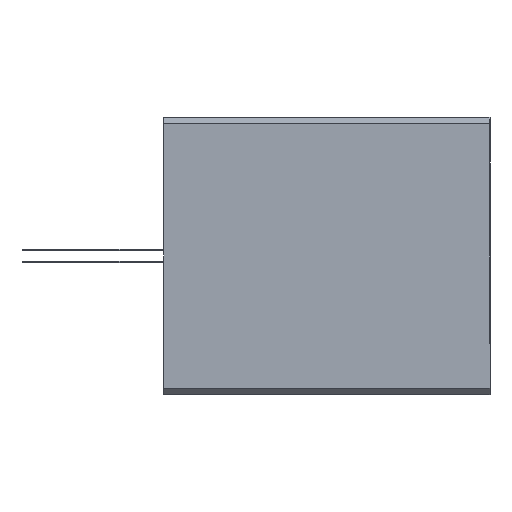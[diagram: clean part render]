
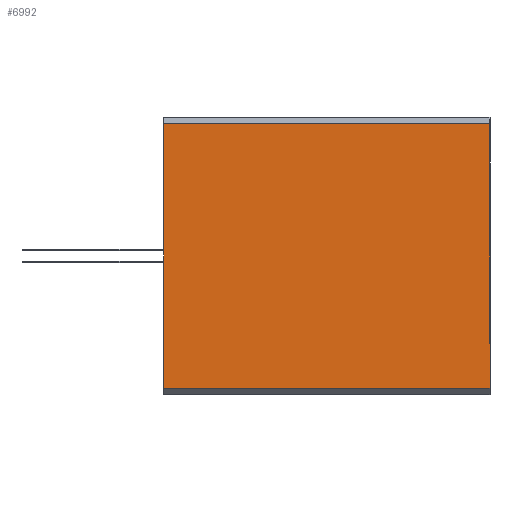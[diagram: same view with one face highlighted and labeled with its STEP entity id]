
A CAD part, front view. The second image highlights one B-rep face of the part: STEP entity #6992.
In plain terms, the highlighted planar face has unit normal (0, -1, 0).
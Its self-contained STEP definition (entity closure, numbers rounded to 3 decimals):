
#282 = DIRECTION ( 'NONE',  ( -1., 0., 0. ) ) ;
#703 = DIRECTION ( 'NONE',  ( 0., 0., -1. ) ) ;
#935 = CARTESIAN_POINT ( 'NONE',  ( 53., -22.5, 22.5 ) ) ;
#1168 = CARTESIAN_POINT ( 'NONE',  ( 53., -22.5, 21.5 ) ) ;
#1223 = EDGE_CURVE ( 'NONE', #5389, #7441, #8275, .T. ) ;
#1420 = EDGE_LOOP ( 'NONE', ( #3278, #5173, #4700, #8642 ) ) ;
#1824 = DIRECTION ( 'NONE',  ( 0., 0., 1. ) ) ;
#2746 = CARTESIAN_POINT ( 'NONE',  ( 53., -22.5, -21.5 ) ) ;
#2822 = EDGE_CURVE ( 'NONE', #11204, #5389, #10324, .T. ) ;
#2939 = VECTOR ( 'NONE', #703, 1000. ) ;
#3278 = ORIENTED_EDGE ( 'NONE', *, *, #1223, .T. ) ;
#3893 = CARTESIAN_POINT ( 'NONE',  ( 0., -22.5, 21.5 ) ) ;
#4263 = CARTESIAN_POINT ( 'NONE',  ( 53., -22.5, 22.5 ) ) ;
#4478 = CARTESIAN_POINT ( 'NONE',  ( 0., -22.5, 22.5 ) ) ;
#4686 = AXIS2_PLACEMENT_3D ( 'NONE', #935, #7218, #1824 ) ;
#4700 = ORIENTED_EDGE ( 'NONE', *, *, #9439, .F. ) ;
#4709 = LINE ( 'NONE', #5759, #9499 ) ;
#5173 = ORIENTED_EDGE ( 'NONE', *, *, #8188, .T. ) ;
#5331 = LINE ( 'NONE', #4263, #2939 ) ;
#5389 = VERTEX_POINT ( 'NONE', #3893 ) ;
#5759 = CARTESIAN_POINT ( 'NONE',  ( 53., -22.5, -21.5 ) ) ;
#5896 = VECTOR ( 'NONE', #7228, 1000. ) ;
#6034 = VERTEX_POINT ( 'NONE', #2746 ) ;
#6992 = ADVANCED_FACE ( 'NONE', ( #11657 ), #8995, .F. ) ;
#7218 = DIRECTION ( 'NONE',  ( 0., 1., 0. ) ) ;
#7228 = DIRECTION ( 'NONE',  ( 0., 0., -1. ) ) ;
#7441 = VERTEX_POINT ( 'NONE', #9584 ) ;
#8188 = EDGE_CURVE ( 'NONE', #7441, #6034, #4709, .T. ) ;
#8275 = LINE ( 'NONE', #4478, #5896 ) ;
#8642 = ORIENTED_EDGE ( 'NONE', *, *, #2822, .T. ) ;
#8995 = PLANE ( 'NONE',  #4686 ) ;
#9439 = EDGE_CURVE ( 'NONE', #11204, #6034, #5331, .T. ) ;
#9499 = VECTOR ( 'NONE', #11098, 1000. ) ;
#9584 = CARTESIAN_POINT ( 'NONE',  ( 0., -22.5, -21.5 ) ) ;
#10038 = VECTOR ( 'NONE', #282, 1000. ) ;
#10324 = LINE ( 'NONE', #1168, #10038 ) ;
#10709 = CARTESIAN_POINT ( 'NONE',  ( 53., -22.5, 21.5 ) ) ;
#11098 = DIRECTION ( 'NONE',  ( 1., 0., 0. ) ) ;
#11204 = VERTEX_POINT ( 'NONE', #10709 ) ;
#11657 = FACE_OUTER_BOUND ( 'NONE', #1420, .T. ) ;
